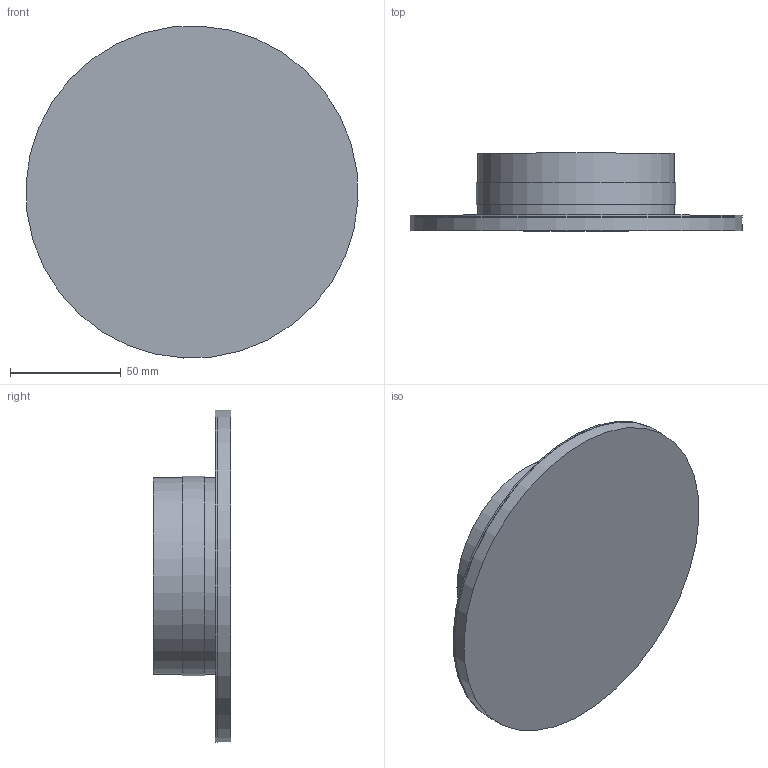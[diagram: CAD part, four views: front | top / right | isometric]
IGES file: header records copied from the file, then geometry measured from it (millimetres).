
Start section: SolidWorks IGES file using analytic representation for surfaces
Global section: file name: X:\PRODUKT\Modele 3D_WWW\_KOLEKCJE WWW\RING-LED\RING-LED-WOOD-S-10280\RING-LED-WOOD-S-10280.IGS; native system: SolidWorks 2021; preprocessor: SolidWorks 2021; author: gabriela.tworek; date: 221025.125443; units: millimetre
Bounding box: 149.8 x 35 x 149.8 mm (x, y, z)
Surface area: 100059.6 mm2 (no closed solid volume)
Topology: 0 solids, 0 shells, 15 faces, 39 edges, 36 vertices
Faces by surface type: bspline 10, revolution 5
